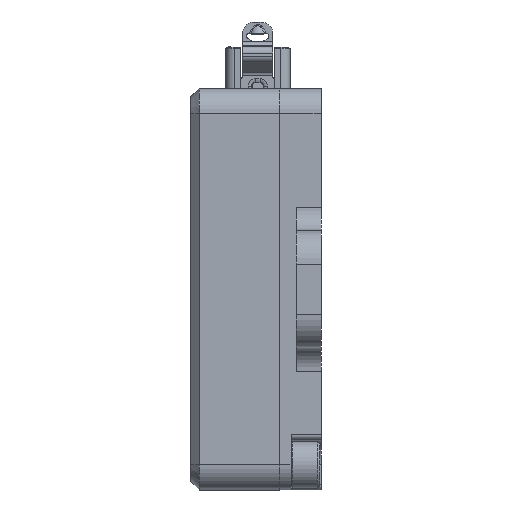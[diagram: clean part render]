
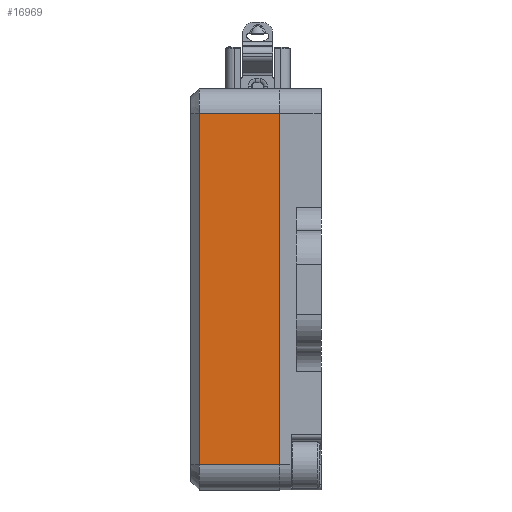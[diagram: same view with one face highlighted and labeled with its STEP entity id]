
A CAD part, left-side view. The second image highlights one B-rep face of the part: STEP entity #16969.
In plain terms, the highlighted planar face has unit normal (-1, 0, 0).
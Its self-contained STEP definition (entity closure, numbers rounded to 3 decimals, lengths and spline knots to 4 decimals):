
#1457=PLANE('',#18263);
#2297=FACE_OUTER_BOUND('',#3311,.T.);
#3311=EDGE_LOOP('',(#15094,#15095,#15096,#15097));
#4647=LINE('',#37362,#6065);
#4713=LINE('',#37568,#6131);
#4717=LINE('',#37585,#6135);
#4718=LINE('',#37587,#6136);
#6065=VECTOR('',#21625,0.3937);
#6131=VECTOR('',#21817,0.0394);
#6135=VECTOR('',#21845,0.0394);
#6136=VECTOR('',#21848,0.0394);
#8154=VERTEX_POINT('',#37357);
#8155=VERTEX_POINT('',#37361);
#8207=VERTEX_POINT('',#37565);
#8208=VERTEX_POINT('',#37567);
#10446=EDGE_CURVE('',#8154,#8155,#4647,.T.);
#10539=EDGE_CURVE('',#8207,#8208,#4713,.T.);
#10548=EDGE_CURVE('',#8208,#8155,#4717,.T.);
#10549=EDGE_CURVE('',#8154,#8207,#4718,.T.);
#15094=ORIENTED_EDGE('',*,*,#10446,.T.);
#15095=ORIENTED_EDGE('',*,*,#10548,.F.);
#15096=ORIENTED_EDGE('',*,*,#10539,.F.);
#15097=ORIENTED_EDGE('',*,*,#10549,.F.);
#16969=ADVANCED_FACE('',(#2297),#1457,.F.);
#18263=AXIS2_PLACEMENT_3D('',#37586,#21846,#21847);
#21625=DIRECTION('',(0.,0.,-1.));
#21817=DIRECTION('',(0.,0.,-1.));
#21845=DIRECTION('',(0.,1.,0.));
#21846=DIRECTION('center_axis',(1.,0.,0.));
#21847=DIRECTION('ref_axis',(0.,0.,-1.));
#21848=DIRECTION('',(0.,-1.,0.));
#37357=CARTESIAN_POINT('',(-0.5,1.3875,2.4601));
#37361=CARTESIAN_POINT('',(-0.5,1.3875,1.4101));
#37362=CARTESIAN_POINT('',(-0.5,1.3875,1.9351));
#37565=CARTESIAN_POINT('',(-0.5,1.1481,2.4601));
#37567=CARTESIAN_POINT('',(-0.5,1.1481,1.4101));
#37568=CARTESIAN_POINT('',(-0.5,1.1481,2.4601));
#37585=CARTESIAN_POINT('',(-0.5,1.4881,1.4101));
#37586=CARTESIAN_POINT('Origin',(-0.5,1.4881,2.5351));
#37587=CARTESIAN_POINT('',(-0.5,1.4881,2.4601));
